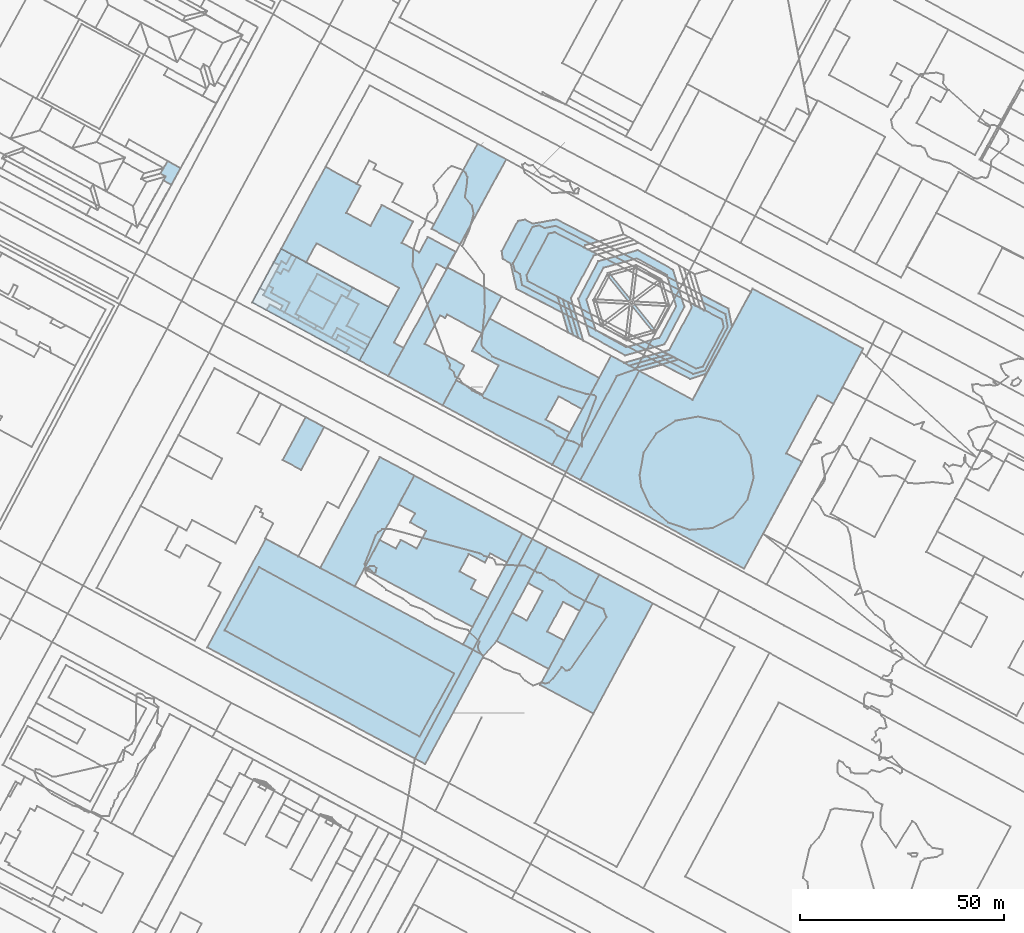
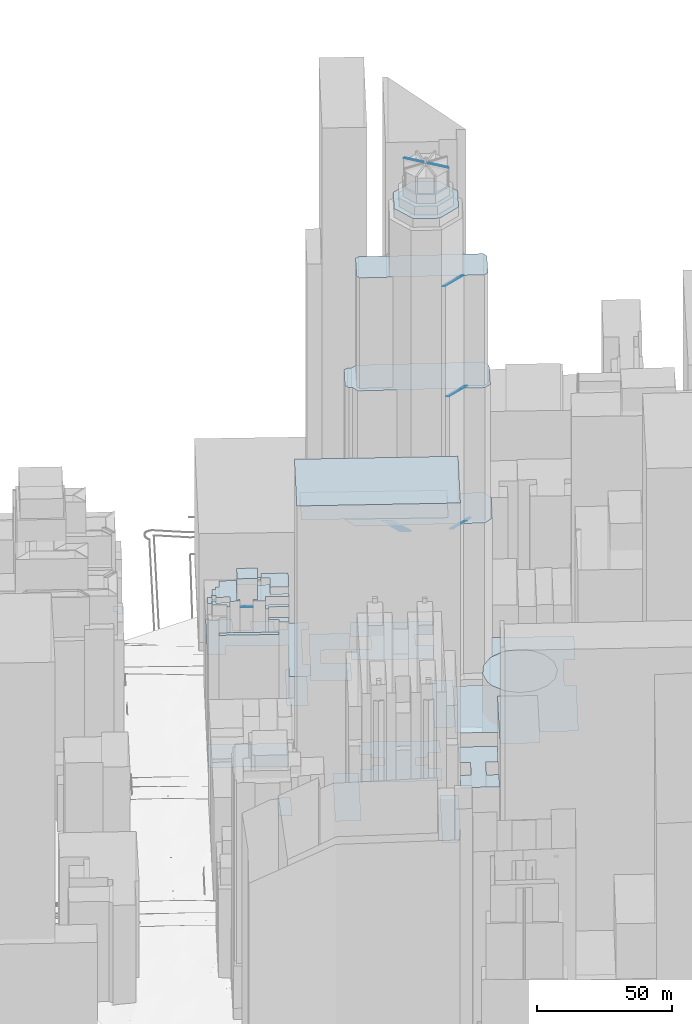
# Not in any storey, part 41 of 80: 40 roofs.
"""IFC4 building model written with IfcOpenShell, lengths in metres."""

from ifc_helpers import new_model, si_unit, frame, origin_with_axes, place, context, subcontext, project, spatial, polygons, element, save


model = new_model("IFC4")

# Units and contexts
model_context = context("Model", 3, precision=1e-05, world=origin_with_axes())
body_context = subcontext(model_context, "Body", "Model", "MODEL_VIEW")
ifc_project = project(units=[si_unit("AREAUNIT", "SQUARE_METRE"), si_unit("LENGTHUNIT", "METRE")], contexts=[model_context])

# Sites, building
site_1_placement = place(None, origin_with_axes())
site_1 = spatial("IfcSite", under=ifc_project, at=site_1_placement, Name="Topoexport Site")
site_2_placement = place(site_1_placement, origin_with_axes())
site_2 = spatial("IfcSite", under=site_1, at=site_2_placement, Name="TPX_BATIMENTS")
building_1_placement = place(site_2_placement, frame((183.8820757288, 196.3915098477, 20.8609767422), z_axis=(0.0, 0.0, 1.0), x_axis=(1.0, 0.0, 0.0)))
building_1 = spatial("IfcBuilding", under=site_2, at=building_1_placement, Name="Batiment 41", CompositionType="ELEMENT")

# Roof
roof_1_placement = place(None, frame((183.8820757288, 196.3915098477, 20.8609767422), z_axis=(0.0, 0.0, 1.0), x_axis=(1.0, 0.0, 0.0)))
element("IfcRoof", 1, at=roof_1_placement, inside=building_1, Name="Toiture 0", context=body_context, shape_type="Tessellation", body=[
    polygons([(0.0, 0.0, 49.0), (13.0985430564, -7.030868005, 49.0), (27.6239079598, 20.0388061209, 49.0), (14.5169569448, 27.0695500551, 49.0)], [[[4, 1, 2]], [[2, 3, 4]]]),
])

# Building
building_2_placement = place(site_2_placement, frame((102.2298570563, 205.6345629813, 20.5938253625), z_axis=(0.0, 0.0, 1.0), x_axis=(1.0, 0.0, 0.0)))
building_2 = spatial("IfcBuilding", under=site_2, at=building_2_placement, Name="Batiment 69", CompositionType="ELEMENT")

# Roof
roof_2_placement = place(None, frame((102.2298570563, 205.6345629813, 20.5938253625), z_axis=(0.0, 0.0, 1.0), x_axis=(1.0, 0.0, 0.0)))
element("IfcRoof", 2, at=roof_2_placement, inside=building_2, Name="Toiture 0", context=body_context, shape_type="Tessellation", body=[
    polygons([(0.0, 0.0, 179.8000030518), (53.4972467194, -28.6328905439, 179.8000030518), (67.8508291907, -2.0204918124, 179.8000030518), (14.353712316, 26.6122941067, 179.8000030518)], [[[4, 1, 2]], [[2, 3, 4]]]),
])

# Building
building_3_placement = place(site_2_placement, frame((106.4781571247, 209.8028425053, 21.3379729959), z_axis=(0.0, 0.0, 1.0), x_axis=(1.0, 0.0, 0.0)))
building_3 = spatial("IfcBuilding", under=site_2, at=building_3_placement, Name="Batiment 70", CompositionType="ELEMENT")

# Roof
roof_3_placement = place(None, frame((106.4781571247, 209.8028425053, 21.3379729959), z_axis=(0.0, 0.0, 1.0), x_axis=(1.0, 0.0, 0.0)))
element("IfcRoof", 3, at=roof_3_placement, inside=building_3, Name="Toiture 0", context=body_context, shape_type="Tessellation", body=[
    polygons([(0.0, 0.0, 168.8000030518), (47.8622501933, -26.0671157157, 168.8000030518), (56.3684390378, -10.5694282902, 168.8000030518), (8.5063843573, 15.4865312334, 168.8000030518)], [[[4, 1, 2]], [[2, 3, 4]]]),
])

# Building
building_4_placement = place(site_2_placement, frame((164.9927892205, 206.3193932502, 19.6062191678), z_axis=(0.0, 0.0, 1.0), x_axis=(1.0, 0.0, 0.0)))
building_4 = spatial("IfcBuilding", under=site_2, at=building_4_placement, Name="Batiment 71", CompositionType="ELEMENT")

# Roof
roof_4_placement = place(None, frame((164.9927892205, 206.3193932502, 19.6062191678), z_axis=(0.0, 0.0, 1.0), x_axis=(1.0, 0.0, 0.0)))
element("IfcRoof", 4, at=roof_4_placement, inside=building_4, Name="Toiture 0", context=body_context, shape_type="Tessellation", body=[
    polygons([(0.0, 0.0, 6.0), (5.0878970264, -2.7053220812, 6.0), (8.2630231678, 0.8287960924, 6.0), (20.6479519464, 23.9544415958, 6.0), (14.5577861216, 27.1921115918, 6.0)], [[[5, 1, 2]], [[2, 3, 4]], [[4, 5, 2]]]),
])

# Building
building_5_placement = place(site_2_placement, frame((173.2558123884, 207.1481893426, 18.8067512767), z_axis=(0.0, 0.0, 1.0), x_axis=(1.0, 0.0, 0.0)))
building_5 = spatial("IfcBuilding", under=site_2, at=building_5_placement, Name="Batiment 72", CompositionType="ELEMENT")

# Roof
roof_5_placement = place(None, frame((173.2558123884, 207.1481893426, 18.8067512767), z_axis=(0.0, 0.0, 1.0), x_axis=(1.0, 0.0, 0.0)))
element("IfcRoof", 5, at=roof_5_placement, inside=building_5, Name="Toiture 0", context=body_context, shape_type="Tessellation", body=[
    polygons([(0.0, 0.0, 28.3999996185), (12.733126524, -6.8241916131, 28.3999996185), (16.475942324, 0.1582329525, 28.3999996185), (12.3816260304, 2.3532869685, 28.3999996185), (16.2731366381, 9.6149967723, 28.3999996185), (20.3758905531, 7.4200430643, 28.3999996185), (25.1432202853, 16.3128705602, 28.3999996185), (12.3849287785, 23.1256455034, 28.3999996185), (7.6512209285, 14.2443195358, 28.3999996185), (11.2869121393, 12.2881807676, 28.3999996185), (7.3952691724, 5.0375743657, 28.3999996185), (3.742823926, 6.9824180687, 28.3999996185)], [[[12, 1, 2]], [[2, 3, 4]], [[5, 6, 7]], [[7, 8, 9]], [[11, 12, 2]], [[5, 7, 9]], [[10, 11, 2]], [[5, 9, 10]], [[10, 2, 4]], [[4, 5, 10]]]),
])

# Building
building_6_placement = place(site_2_placement, frame((159.9721915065, 264.969762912, 19.7613864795), z_axis=(0.0, 0.0, 1.0), x_axis=(1.0, 0.0, 0.0)))
building_6 = spatial("IfcBuilding", under=site_2, at=building_6_placement, Name="Batiment 73", CompositionType="ELEMENT")

# Roof
roof_6_placement = place(None, frame((159.9721915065, 264.969762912, 19.7613864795), z_axis=(0.0, 0.0, 1.0), x_axis=(1.0, 0.0, 0.0)))
element("IfcRoof", 6, at=roof_6_placement, inside=building_6, Name="Toiture 0", context=body_context, shape_type="Tessellation", body=[
    polygons([(0.0, 0.0, 54.7000007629), (26.8862979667, -14.5533802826, 54.7000007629), (31.1586807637, -6.6544117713, 54.7000007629), (25.3312162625, -3.502510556, 54.7000007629), (28.4385534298, 2.2290739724, 54.7000007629), (34.2660149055, -0.9228247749, 54.7000007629), (38.4143590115, 6.7526611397, 54.7000007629), (11.5365531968, 21.3060973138, 54.7000007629), (7.2227399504, 13.3400447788, 54.7000007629), (13.7552421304, 9.807746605, 54.7000007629), (9.8628457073, 2.6237495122, 54.7000007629), (3.3387795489, 6.1561492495, 54.7000007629)], [[[12, 1, 2]], [[2, 3, 4]], [[5, 6, 7]], [[7, 8, 9]], [[11, 12, 2]], [[5, 7, 9]], [[10, 11, 2]], [[5, 9, 10]], [[10, 2, 4]], [[4, 5, 10]]]),
])

# Building
building_7_placement = place(site_2_placement, frame((140.736043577, 224.855812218, 18.8878227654), z_axis=(0.0, 0.0, 1.0), x_axis=(1.0, 0.0, 0.0)))
building_7 = spatial("IfcBuilding", under=site_2, at=building_7_placement, Name="Batiment 74", CompositionType="ELEMENT")

# Roof
roof_7_placement = place(None, frame((140.736043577, 224.855812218, 18.8878227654), z_axis=(0.0, 0.0, 1.0), x_axis=(1.0, 0.0, 0.0)))
element("IfcRoof", 7, at=roof_7_placement, inside=building_7, Name="Toiture 0", context=body_context, shape_type="Tessellation", body=[
    polygons([(0.0, 0.0, 31.3999996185), (26.5536145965, -14.2464559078, 31.3999996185), (30.3624164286, -7.1300469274, 31.3999996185), (26.1831921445, -4.8915607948, 31.3999996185), (27.3481177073, -2.7130804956, 31.3999996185), (23.3727549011, -0.5832457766, 31.3999996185), (25.6615651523, 3.6733168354, 31.3999996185), (29.6369264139, 1.5434833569, 31.3999996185), (30.8679530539, 3.8448574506, 31.3999996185), (35.0471740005, 1.6063739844, 31.3999996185), (38.8145317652, 8.6556926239, 31.3999996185), (12.3027872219, 22.9358968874, 31.3999996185), (8.4690509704, 15.7859003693, 31.3999996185), (12.4614103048, 13.6451532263, 31.3999996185), (11.254926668, 11.4106810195, 31.3999996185), (15.2048295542, 9.2916463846, 31.3999996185), (12.9161442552, 5.023986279, 31.3999996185), (8.9662398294, 7.1430221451, 31.3999996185), (7.801181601, 4.9756455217, 31.3999996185), (3.8172594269, 7.11649328, 31.3999996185)], [[[20, 1, 2]], [[2, 3, 4]], [[4, 5, 6]], [[7, 8, 9]], [[9, 10, 11]], [[11, 12, 13]], [[14, 15, 16]], [[17, 18, 19]], [[19, 20, 2]], [[2, 4, 6]], [[7, 9, 11]], [[11, 13, 14]], [[17, 19, 2]], [[7, 11, 14]], [[16, 17, 2]], [[6, 7, 14]], [[16, 2, 6]], [[6, 14, 16]]]),
])

# Building
building_8_placement = place(site_2_placement, frame((129.9536213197, 225.0858006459, 21.0283081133), z_axis=(0.0, 0.0, 1.0), x_axis=(1.0, 0.0, 0.0)))
building_8 = spatial("IfcBuilding", under=site_2, at=building_8_placement, Name="Batiment 75", CompositionType="ELEMENT")

# Roof
roof_8_placement = place(None, frame((129.9536213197, 225.0858006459, 21.0283081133), z_axis=(0.0, 0.0, 1.0), x_axis=(1.0, 0.0, 0.0)))
element("IfcRoof", 8, at=roof_8_placement, inside=building_8, Name="Toiture 0", context=body_context, shape_type="Tessellation", body=[
    polygons([(0.0, 0.0, 15.1999998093), (8.4687912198, -4.5312400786, 15.1999998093), (23.0852094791, 22.7059084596, 15.1999998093), (14.6163103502, 27.2482324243, 15.1999998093)], [[[4, 1, 2]], [[2, 3, 4]]]),
])

# Building
building_9_placement = place(site_2_placement, frame((120.7569680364, 251.5799535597, 21.6785385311), z_axis=(0.0, 0.0, 1.0), x_axis=(1.0, 0.0, 0.0)))
building_9 = spatial("IfcBuilding", under=site_2, at=building_9_placement, Name="Batiment 79", CompositionType="ELEMENT")

# Roof
roof_9_placement = place(None, frame((120.7569680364, 251.5799535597, 21.6785385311), z_axis=(0.0, 0.0, 1.0), x_axis=(1.0, 0.0, 0.0)))
element("IfcRoof", 9, at=roof_9_placement, inside=building_9, Name="Toiture 0", context=body_context, shape_type="Tessellation", body=[
    polygons([(0.0, 0.0, 4.0), (4.5360060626, -2.4342069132, 4.0), (10.1793614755, 8.0785806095, 4.0), (5.6434887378, 10.5016832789, 4.0)], [[[4, 1, 2]], [[2, 3, 4]]]),
])

# Building
building_10_placement = place(site_2_placement, frame((133.701994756, 280.9958944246, 22.2284312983), z_axis=(0.0, 0.0, 1.0), x_axis=(1.0, 0.0, 0.0)))
building_10 = spatial("IfcBuilding", under=site_2, at=building_10_placement, Name="Batiment 80", CompositionType="ELEMENT")

# Roof
roof_10_placement = place(None, frame((133.701994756, 280.9958944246, 22.2284312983), z_axis=(0.0, 0.0, 1.0), x_axis=(1.0, 0.0, 0.0)))
element("IfcRoof", 10, at=roof_10_placement, inside=building_10, Name="Toiture 0", context=body_context, shape_type="Tessellation", body=[
    polygons([(0.0, 0.0, 70.0), (3.3046733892, -1.8045757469, 70.0), (2.5274119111, -3.2013890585, 70.0), (5.8745466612, -5.0276748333, 70.0), (7.3210219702, -2.3796322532, 70.0), (0.686095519, 1.2514244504, 70.0)], [[[6, 1, 2]], [[2, 3, 4]], [[5, 6, 2]], [[2, 4, 5]]]),
])

# Building
building_11_placement = place(site_2_placement, frame((132.7675039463, 281.5068423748, 22.0591971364), z_axis=(0.0, 0.0, 1.0), x_axis=(1.0, 0.0, 0.0)))
building_11 = spatial("IfcBuilding", under=site_2, at=building_11_placement, Name="Batiment 81", CompositionType="ELEMENT")

# Roof
roof_11_placement = place(None, frame((132.7675039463, 281.5068423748, 22.0591971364), z_axis=(0.0, 0.0, 1.0), x_axis=(1.0, 0.0, 0.0)))
element("IfcRoof", 11, at=roof_11_placement, inside=building_11, Name="Toiture 0", context=body_context, shape_type="Tessellation", body=[
    polygons([(0.0, 0.0, 75.0), (0.9344908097, -0.5109479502, 75.0), (1.6205863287, 0.7404765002, 75.0), (8.2555127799, -2.8905802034, 75.0), (8.9001799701, -1.7062499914, 75.0), (1.3392038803, 2.43585198, 75.0)], [[[6, 1, 2]], [[3, 4, 5]], [[6, 2, 3]], [[3, 5, 6]]]),
])

# Building
building_12_placement = place(site_2_placement, frame((136.4219742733, 284.4691979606, 20.8510870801), z_axis=(0.0, 0.0, 1.0), x_axis=(1.0, 0.0, 0.0)))
building_12 = spatial("IfcBuilding", under=site_2, at=building_12_placement, Name="Batiment 82", CompositionType="ELEMENT")

# Roof
roof_12_placement = place(None, frame((136.4219742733, 284.4691979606, 20.8510870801), z_axis=(0.0, 0.0, 1.0), x_axis=(1.0, 0.0, 0.0)))
element("IfcRoof", 12, at=roof_12_placement, inside=building_12, Name="Toiture 0", context=body_context, shape_type="Tessellation", body=[
    polygons([(0.0, 0.0, 83.0), (6.088815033, -3.1266972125, 83.0), (10.3290123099, 4.6386442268, 83.0), (1.4688163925, 9.4428815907, 83.0), (0.063512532, 6.8841359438, 83.0), (2.9178819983, 5.3296808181, 83.0)], [[[6, 1, 2]], [[2, 3, 4]], [[4, 5, 6]], [[6, 2, 4]]]),
])

# Building
building_13_placement = place(site_2_placement, frame((128.6389686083, 283.7459380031, 21.7688219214), z_axis=(0.0, 0.0, 1.0), x_axis=(1.0, 0.0, 0.0)))
building_13 = spatial("IfcBuilding", under=site_2, at=building_13_placement, Name="Batiment 83", CompositionType="ELEMENT")

# Roof
roof_13_placement = place(None, frame((128.6389686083, 283.7459380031, 21.7688219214), z_axis=(0.0, 0.0, 1.0), x_axis=(1.0, 0.0, 0.0)))
element("IfcRoof", 13, at=roof_13_placement, inside=building_13, Name="Toiture 0", context=body_context, shape_type="Tessellation", body=[
    polygons([(0.0, 0.0, 79.0), (4.128535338, -2.2390956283, 79.0), (5.4677392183, 0.1967563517, 79.0), (13.0287153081, -3.9453456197, 79.0), (13.8718206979, -2.403437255, 79.0), (7.7830056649, 0.7232599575, 79.0), (10.7008876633, 6.0529407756, 79.0), (6.5976755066, 8.2923269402, 79.0), (1.9668380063, 0.0006475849, 79.0), (0.4547989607, 0.8157486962, 79.0)], [[[10, 1, 2]], [[3, 4, 5]], [[6, 7, 8]], [[9, 10, 2]], [[3, 5, 6]], [[6, 8, 9]], [[9, 2, 3]], [[3, 6, 9]]]),
])

# Building
building_14_placement = place(site_2_placement, frame((127.1263243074, 293.3318134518, 21.914507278), z_axis=(0.0, 0.0, 1.0), x_axis=(1.0, 0.0, 0.0)))
building_14 = spatial("IfcBuilding", under=site_2, at=building_14_placement, Name="Batiment 84", CompositionType="ELEMENT")

# Roof
roof_14_placement = place(None, frame((127.1263243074, 293.3318134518, 21.914507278), z_axis=(0.0, 0.0, 1.0), x_axis=(1.0, 0.0, 0.0)))
element("IfcRoof", 14, at=roof_14_placement, inside=building_14, Name="Toiture 0", context=body_context, shape_type="Tessellation", body=[
    polygons([(0.0, 0.0, 81.0), (6.7281427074, -3.6632865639, 81.0), (8.1103198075, -1.2935485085, 81.0), (9.3591624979, -1.9784795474, 81.0), (10.1940852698, -0.4588713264, 81.0), (2.1408822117, 3.9106630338, 81.0)], [[[6, 1, 2]], [[3, 4, 5]], [[6, 2, 3]], [[3, 5, 6]]]),
])

# Building
building_15_placement = place(site_2_placement, frame((113.2505831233, 290.2618220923, 20.8510870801), z_axis=(0.0, 0.0, 1.0), x_axis=(1.0, 0.0, 0.0)))
building_15 = spatial("IfcBuilding", under=site_2, at=building_15_placement, Name="Batiment 85", CompositionType="ELEMENT")

# Roof
roof_15_placement = place(None, frame((113.2505831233, 290.2618220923, 20.8510870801), z_axis=(0.0, 0.0, 1.0), x_axis=(1.0, 0.0, 0.0)))
element("IfcRoof", 15, at=roof_15_placement, inside=building_15, Name="Toiture 0", context=body_context, shape_type="Tessellation", body=[
    polygons([(0.0, 0.0, 6.0), (26.3259582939, -14.293602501, 6.0), (33.5004034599, -1.1539799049, 6.0), (7.1070834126, 13.1277116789, 6.0)], [[[4, 1, 2]], [[2, 3, 4]]]),
])

# Building
building_16_placement = place(site_2_placement, frame((123.8777892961, 287.3987743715, 22.3844927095), z_axis=(0.0, 0.0, 1.0), x_axis=(1.0, 0.0, 0.0)))
building_16 = spatial("IfcBuilding", under=site_2, at=building_16_placement, Name="Batiment 86", CompositionType="ELEMENT")

# Roof
roof_16_placement = place(None, frame((123.8777892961, 287.3987743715, 22.3844927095), z_axis=(0.0, 0.0, 1.0), x_axis=(1.0, 0.0, 0.0)))
element("IfcRoof", 16, at=roof_16_placement, inside=building_16, Name="Toiture 0", context=body_context, shape_type="Tessellation", body=[
    polygons([(0.0, 0.0, 87.9000015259), (6.7280173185, -3.6521887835, 87.9000015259), (9.9766777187, 2.2697525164, 87.9000015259), (3.2485350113, 5.9330390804, 87.9000015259)], [[[4, 1, 2]], [[2, 3, 4]]]),
])

# Building
building_17_placement = place(site_2_placement, frame((124.4423978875, 286.0286544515, 23.0098590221), z_axis=(0.0, 0.0, 1.0), x_axis=(1.0, 0.0, 0.0)))
building_17 = spatial("IfcBuilding", under=site_2, at=building_17_placement, Name="Batiment 87", CompositionType="ELEMENT")

# Roof
roof_17_placement = place(None, frame((124.4423978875, 286.0286544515, 23.0098590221), z_axis=(0.0, 0.0, 1.0), x_axis=(1.0, 0.0, 0.0)))
element("IfcRoof", 17, at=roof_17_placement, inside=building_17, Name="Toiture 0", context=body_context, shape_type="Tessellation", body=[
    polygons([(0.0, 0.0, 75.0), (4.1965707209, -2.2827164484, 75.0), (4.6513696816, -1.4669677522, 75.0), (0.4463590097, 0.8156503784, 75.0)], [[[4, 1, 2]], [[2, 3, 4]]]),
])

# Building
building_18_placement = place(site_2_placement, frame((116.8013041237, 288.3490732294, 22.6187660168), z_axis=(0.0, 0.0, 1.0), x_axis=(1.0, 0.0, 0.0)))
building_18 = spatial("IfcBuilding", under=site_2, at=building_18_placement, Name="Batiment 88", CompositionType="ELEMENT")

# Roof
roof_18_placement = place(None, frame((116.8013041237, 288.3490732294, 22.6187660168), z_axis=(0.0, 0.0, 1.0), x_axis=(1.0, 0.0, 0.0)))
element("IfcRoof", 18, at=roof_18_placement, inside=building_18, Name="Toiture 0", context=body_context, shape_type="Tessellation", body=[
    polygons([(0.0, 0.0, 64.0), (19.4281025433, -10.5545678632, 64.0), (20.2053640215, -9.1577545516, 64.0), (0.7771349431, 1.4079120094, 64.0)], [[[4, 1, 2]], [[2, 3, 4]]]),
])

# Building
building_19_placement = place(site_2_placement, frame((115.9822453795, 292.0033020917, 23.3452877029), z_axis=(0.0, 0.0, 1.0), x_axis=(1.0, 0.0, 0.0)))
building_19 = spatial("IfcBuilding", under=site_2, at=building_19_placement, Name="Batiment 90", CompositionType="ELEMENT")

# Roof
roof_19_placement = place(None, frame((115.9822453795, 292.0033020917, 23.3452877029), z_axis=(0.0, 0.0, 1.0), x_axis=(1.0, 0.0, 0.0)))
element("IfcRoof", 19, at=roof_19_placement, inside=building_19, Name="Toiture 0", context=body_context, shape_type="Tessellation", body=[
    polygons([(0.0, 0.0, 75.0), (4.7571032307, -2.5759699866, 75.0), (4.1786660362, -3.648506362, 75.0), (5.1896332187, -4.2029764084, 75.0), (6.4789719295, -1.8343194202, 75.0), (1.8832649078, 0.6547063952, 75.0), (2.4784536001, 1.7385394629, 75.0), (1.2720721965, 2.4017622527, 75.0)], [[[2, 3, 4]], [[6, 7, 8]], [[2, 4, 5]], [[6, 8, 1]], [[1, 2, 5]], [[5, 6, 1]]]),
])

# Building
building_20_placement = place(site_2_placement, frame((117.2543175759, 294.4050643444, 21.8182038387), z_axis=(0.0, 0.0, 1.0), x_axis=(1.0, 0.0, 0.0)))
building_20 = spatial("IfcBuilding", under=site_2, at=building_20_placement, Name="Batiment 92", CompositionType="ELEMENT")

# Roof
roof_20_placement = place(None, frame((117.2543175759, 294.4050643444, 21.8182038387), z_axis=(0.0, 0.0, 1.0), x_axis=(1.0, 0.0, 0.0)))
element("IfcRoof", 20, at=roof_20_placement, inside=building_20, Name="Toiture 0", context=body_context, shape_type="Tessellation", body=[
    polygons([(0.0, 0.0, 79.0), (1.2063814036, -0.6632227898, 79.0), (0.6111927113, -1.7470558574, 79.0), (5.206899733, -4.2360816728, 79.0), (3.9175610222, -6.6047386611, 79.0), (7.1880803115, -8.3764098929, 79.0), (7.6344393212, -7.5607595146, 79.0), (6.6234717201, -7.0062899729, 79.0), (12.0128889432, 2.8374121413, 79.0), (20.0660920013, -1.532122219, 79.0), (20.6364730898, -0.4929847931, 79.0), (6.8834997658, 6.9411625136, 79.0), (4.9492373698, 3.4103780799, 79.0), (3.7259757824, 4.073404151, 79.0), (3.0481909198, 2.8331797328, 79.0), (1.8928382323, 3.4636882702, 79.0)], [[[16, 1, 2]], [[2, 3, 4]], [[4, 5, 6]], [[6, 7, 8]], [[9, 10, 11]], [[13, 14, 15]], [[15, 16, 2]], [[4, 6, 8]], [[9, 11, 12]], [[13, 15, 2]], [[4, 8, 9]], [[9, 12, 13]], [[13, 2, 4]], [[4, 9, 13]]]),
])

# Building
building_21_placement = place(site_2_placement, frame((120.3576665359, 303.3895337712, 19.1918452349), z_axis=(0.0, 0.0, 1.0), x_axis=(1.0, 0.0, 0.0)))
building_21 = spatial("IfcBuilding", under=site_2, at=building_21_placement, Name="Batiment 93", CompositionType="ELEMENT")

# Roof
roof_21_placement = place(None, frame((120.3576665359, 303.3895337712, 19.1918452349), z_axis=(0.0, 0.0, 1.0), x_axis=(1.0, 0.0, 0.0)))
element("IfcRoof", 21, at=roof_21_placement, inside=building_21, Name="Toiture 0", context=body_context, shape_type="Tessellation", body=[
    polygons([(0.0, 0.0, 48.2999992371), (6.1586360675, -3.3257392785, 48.2999992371), (8.6958773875, 1.3444821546, 48.2999992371), (28.9305528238, -9.6114631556, 48.2999992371), (19.2188748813, -27.4213141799, 48.2999992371), (26.294638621, -31.2137773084, 48.2999992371), (30.029914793, -24.3091752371, 48.2999992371), (27.6853086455, -23.0374588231, 48.2999992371), (38.1557868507, -3.6977675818, 48.2999992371), (40.5002598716, -4.9583798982, 48.2999992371), (42.7894344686, -0.7351197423, 48.2999992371), (36.0020774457, 2.9385544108, 48.2999992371), (33.927701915, -0.8825259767, 48.2999992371), (29.5868752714, 1.4651129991, 48.2999992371), (32.3883820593, 6.6380157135, 48.2999992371), (24.7261469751, 10.7789291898, 48.2999992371), (21.9330768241, 5.6061274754, 48.2999992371), (15.9697266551, 8.8342025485, 48.2999992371), (19.5314868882, 15.4148184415, 48.2999992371), (10.8837545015, 20.0994069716, 48.2999992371)], [[[20, 1, 2]], [[4, 5, 6]], [[6, 7, 8]], [[9, 10, 11]], [[11, 12, 13]], [[14, 15, 16]], [[18, 19, 20]], [[20, 2, 3]], [[4, 6, 8]], [[9, 11, 13]], [[14, 16, 17]], [[18, 20, 3]], [[4, 8, 9]], [[9, 13, 14]], [[17, 18, 3]], [[3, 4, 9]], [[9, 14, 17]], [[17, 3, 9]]]),
])

# Building
building_22_placement = place(site_2_placement, frame((146.6523051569, 272.1757564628, 19.3891240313), z_axis=(0.0, 0.0, 1.0), x_axis=(1.0, 0.0, 0.0)))
building_22 = spatial("IfcBuilding", under=site_2, at=building_22_placement, Name="Batiment 94", CompositionType="ELEMENT")

# Roof
roof_22_placement = place(None, frame((146.6523051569, 272.1757564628, 19.3891240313), z_axis=(0.0, 0.0, 1.0), x_axis=(1.0, 0.0, 0.0)))
element("IfcRoof", 22, at=roof_22_placement, inside=building_22, Name="Toiture 0", context=body_context, shape_type="Tessellation", body=[
    polygons([(0.0, 0.0, 45.9000015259), (13.3198863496, -7.2059935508, 45.9000015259), (18.6586321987, 2.6371463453, 45.9000015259), (8.931952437, 7.9086886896, 45.9000015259), (12.7252657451, 14.9027882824, 45.9000015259), (13.982422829, 14.2290601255, 45.9000015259), (14.4368310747, 15.0781131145, 45.9000015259), (22.9062179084, 10.4914052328, 45.9000015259), (27.7984552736, 19.5299999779, 45.9000015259), (14.5389731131, 26.6256464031, 45.9000015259)], [[[1, 2, 3]], [[5, 6, 7]], [[7, 8, 9]], [[1, 3, 4]], [[5, 7, 9]], [[10, 1, 4]], [[5, 9, 10]], [[10, 4, 5]]]),
])

# Building
building_23_placement = place(site_2_placement, frame((190.7505875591, 290.2965312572, 21.0925550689), z_axis=(0.0, 0.0, 1.0), x_axis=(1.0, 0.0, 0.0)))
building_23 = spatial("IfcBuilding", under=site_2, at=building_23_placement, Name="Batiment 95", CompositionType="ELEMENT")

# Roof
roof_23_placement = place(None, frame((190.7505875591, 290.2965312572, 21.0925550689), z_axis=(0.0, 0.0, 1.0), x_axis=(1.0, 0.0, 0.0)))
element("IfcRoof", 23, at=roof_23_placement, inside=building_23, Name="Toiture 0", context=body_context, shape_type="Tessellation", body=[
    polygons([(0.0, 0.0, 90.0), (2.5927444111, -8.8183526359, 90.0), (3.7905656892, -9.4705605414, 90.0), (1.2400209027, -0.6517176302, 90.0)], [[[4, 1, 2]], [[2, 3, 4]]]),
])

# Building
building_24_placement = place(site_2_placement, frame((189.5021266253, 290.948150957, 21.1265616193), z_axis=(0.0, 0.0, 1.0), x_axis=(1.0, 0.0, 0.0)))
building_24 = spatial("IfcBuilding", under=site_2, at=building_24_placement, Name="Batiment 96", CompositionType="ELEMENT")

# Roof
roof_24_placement = place(None, frame((189.5021266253, 290.948150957, 21.1265616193), z_axis=(0.0, 0.0, 1.0), x_axis=(1.0, 0.0, 0.0)))
element("IfcRoof", 24, at=roof_24_placement, inside=building_24, Name="Toiture 0", context=body_context, shape_type="Tessellation", body=[
    polygons([(0.0, 0.0, 90.0), (2.5839152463, -8.7851489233, 90.0), (3.8412053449, -9.4699723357, 90.0), (1.2484609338, -0.6516196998, 90.0)], [[[4, 1, 2]], [[2, 3, 4]]]),
])

# Building
building_25_placement = place(site_2_placement, frame((188.2449675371, 291.6218742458, 21.1651408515), z_axis=(0.0, 0.0, 1.0), x_axis=(1.0, 0.0, 0.0)))
building_25 = spatial("IfcBuilding", under=site_2, at=building_25_placement, Name="Batiment 97", CompositionType="ELEMENT")

# Roof
roof_25_placement = place(None, frame((188.2449675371, 291.6218742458, 21.1651408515), z_axis=(0.0, 0.0, 1.0), x_axis=(1.0, 0.0, 0.0)))
element("IfcRoof", 25, at=roof_25_placement, inside=building_25, Name="Toiture 0", context=body_context, shape_type="Tessellation", body=[
    polygons([(0.0, 0.0, 90.0), (2.5839135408, -8.7851493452, 90.0), (3.8410743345, -9.4588722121, 90.0), (1.2571590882, -0.6737232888, 90.0)], [[[4, 1, 2]], [[2, 3, 4]]]),
])

# Building
building_26_placement = place(site_2_placement, frame((204.4971683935, 275.4350208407, 21.6849039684), z_axis=(0.0, 0.0, 1.0), x_axis=(1.0, 0.0, 0.0)))
building_26 = spatial("IfcBuilding", under=site_2, at=building_26_placement, Name="Batiment 104", CompositionType="ELEMENT")

# Roof
roof_26_placement = place(None, frame((204.4971683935, 275.4350208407, 21.6849039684), z_axis=(0.0, 0.0, 1.0), x_axis=(1.0, 0.0, 0.0)))
element("IfcRoof", 26, at=roof_26_placement, inside=building_26, Name="Toiture 0", context=body_context, shape_type="Tessellation", body=[
    polygons([(0.0, 0.0, 200.0), (1.2741729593, -0.6846250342, 200.0), (10.7814669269, 2.0238691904, 200.0), (9.490542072, 2.6971955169, 200.0)], [[[4, 1, 2]], [[2, 3, 4]]]),
])

# Building
building_27_placement = place(site_2_placement, frame((205.7713413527, 274.7503958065, 21.7965636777), z_axis=(0.0, 0.0, 1.0), x_axis=(1.0, 0.0, 0.0)))
building_27 = spatial("IfcBuilding", under=site_2, at=building_27_placement, Name="Batiment 105", CompositionType="ELEMENT")

# Roof
roof_27_placement = place(None, frame((205.7713413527, 274.7503958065, 21.7965636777), z_axis=(0.0, 0.0, 1.0), x_axis=(1.0, 0.0, 0.0)))
element("IfcRoof", 27, at=roof_27_placement, inside=building_27, Name="Toiture 0", context=body_context, shape_type="Tessellation", body=[
    polygons([(0.0, 0.0, 150.0), (1.2572926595, -0.6848211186, 150.0), (10.7897787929, 2.0350699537, 150.0), (9.5072939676, 2.7084942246, 150.0)], [[[4, 1, 2]], [[2, 3, 4]]]),
])

# Building
building_28_placement = place(site_2_placement, frame((207.0286340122, 274.0655746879, 21.8143831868), z_axis=(0.0, 0.0, 1.0), x_axis=(1.0, 0.0, 0.0)))
building_28 = spatial("IfcBuilding", under=site_2, at=building_28_placement, Name="Batiment 106", CompositionType="ELEMENT")

# Roof
roof_28_placement = place(None, frame((207.0286340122, 274.0655746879, 21.8143831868), z_axis=(0.0, 0.0, 1.0), x_axis=(1.0, 0.0, 0.0)))
element("IfcRoof", 28, at=roof_28_placement, inside=building_28, Name="Toiture 0", context=body_context, shape_type="Tessellation", body=[
    polygons([(0.0, 0.0, 90.0), (1.1722447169, -0.630298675, 90.0), (10.6620135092, 2.1335061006, 90.0), (9.5324861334, 2.7198910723, 90.0)], [[[4, 1, 2]], [[2, 3, 4]]]),
])

# Building
building_29_placement = place(site_2_placement, frame((193.2816809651, 291.1364254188, 247.2874462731), z_axis=(0.0, 0.0, 1.0), x_axis=(1.0, 0.0, 0.0)))
building_29 = spatial("IfcBuilding", under=site_2, at=building_29_placement, Name="Batiment 108", CompositionType="ELEMENT")

# Roof
roof_29_placement = place(None, frame((193.2816809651, 291.1364254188, 247.2874462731), z_axis=(0.0, 0.0, 1.0), x_axis=(1.0, 0.0, 0.0)))
element("IfcRoof", 29, at=roof_29_placement, inside=building_29, Name="Toiture 0", context=body_context, shape_type="Tessellation", body=[
    polygons([(0.0, 0.0, 4.0), (2.7471243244, -9.0274996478, 4.0), (11.4476540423, -13.8890368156, 4.0), (21.1319324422, -11.1562809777, 4.0), (26.0391907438, -1.9620488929, 4.0), (23.2920400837, 7.0654426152, 4.0), (14.5913971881, 11.9380665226, 4.0), (4.9071471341, 9.2053187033, 4.0)], [[[8, 1, 2]], [[2, 3, 4]], [[4, 5, 6]], [[6, 7, 8]], [[8, 2, 4]], [[4, 6, 8]]]),
])

# Building
building_30_placement = place(site_2_placement, frame((200.4835497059, 296.8268073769, 260.0739856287), z_axis=(0.0, 0.0, 1.0), x_axis=(1.0, 0.0, 0.0)))
building_30 = spatial("IfcBuilding", under=site_2, at=building_30_placement, Name="Batiment 109", CompositionType="ELEMENT")

# Roof
roof_30_placement = place(None, frame((200.4835497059, 296.8268073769, 260.0739856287), z_axis=(0.0, 0.0, 1.0), x_axis=(1.0, 0.0, 0.0)))
element("IfcRoof", 30, at=roof_30_placement, inside=building_30, Name="Toiture 0", context=body_context, shape_type="Tessellation", body=[
    polygons([(0.0, 0.0, 8.0), (11.1849786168, -13.8032627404, 8.0), (11.7370008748, -13.3638547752, 8.0), (0.5434525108, 0.450409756, 8.0)], [[[4, 1, 2]], [[2, 3, 4]]]),
])

# Building
building_31_placement = place(site_2_placement, frame((174.515196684, 302.8642732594, 21.3701181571), z_axis=(0.0, 0.0, 1.0), x_axis=(1.0, 0.0, 0.0)))
building_31 = spatial("IfcBuilding", under=site_2, at=building_31_placement, Name="Batiment 118", CompositionType="ELEMENT")

# Roof
roof_31_placement = place(None, frame((174.515196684, 302.8642732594, 21.3701181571), z_axis=(0.0, 0.0, 1.0), x_axis=(1.0, 0.0, 0.0)))
element("IfcRoof", 31, at=roof_31_placement, inside=building_31, Name="Toiture 0", context=body_context, shape_type="Tessellation", body=[
    polygons([(0.0, 0.0, 90.0), (0.2596837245, -2.0064896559, 90.0), (2.2055322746, -3.1051971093, 90.0), (3.6457642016, -9.3612290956, 90.0), (46.1429906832, -31.4157509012, 90.0), (50.1375301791, -30.1147343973, 90.0), (56.4684852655, -18.4947444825, 90.0), (55.6076025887, -14.152673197, 90.0), (13.4416773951, 7.7280088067, 90.0), (7.5533148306, 6.6825504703, 90.0), (5.6591417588, 7.693039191, 90.0), (3.9490017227, 7.3956015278, 90.0)], [[[12, 1, 2]], [[3, 4, 5]], [[5, 6, 7]], [[7, 8, 9]], [[10, 11, 12]], [[12, 2, 3]], [[3, 5, 7]], [[7, 9, 10]], [[10, 12, 3]], [[3, 7, 10]]]),
])

# Building
building_32_placement = place(site_2_placement, frame((177.2431205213, 299.8428648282, 43.5388270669), z_axis=(0.0, 0.0, 1.0), x_axis=(1.0, 0.0, 0.0)))
building_32 = spatial("IfcBuilding", under=site_2, at=building_32_placement, Name="Batiment 119", CompositionType="ELEMENT")

# Roof
roof_32_placement = place(None, frame((177.2431205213, 299.8428648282, 43.5388270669), z_axis=(0.0, 0.0, 1.0), x_axis=(1.0, 0.0, 0.0)))
element("IfcRoof", 32, at=roof_32_placement, inside=building_32, Name="Toiture 0", context=body_context, shape_type="Tessellation", body=[
    polygons([(0.0, 0.0, 128.0), (0.5291270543, -1.9478459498, 128.0), (1.7866712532, -2.6548732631, 128.0), (2.2654927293, -5.358257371, 128.0), (44.1689292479, -27.1643259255, 128.0), (47.0793212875, -26.2756005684, 128.0), (52.7120119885, -15.5852207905, 128.0), (52.1358092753, -12.4943931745, 128.0), (10.4871850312, 9.1813647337, 128.0), (7.7499180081, 8.6499384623, 128.0), (6.3919957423, 9.2780819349, 128.0), (4.8257265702, 8.9490093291, 128.0)], [[[12, 1, 2]], [[3, 4, 5]], [[5, 6, 7]], [[7, 8, 9]], [[10, 11, 12]], [[12, 2, 3]], [[3, 5, 7]], [[7, 9, 10]], [[10, 12, 3]], [[3, 7, 10]]]),
])

# Building
building_33_placement = place(site_2_placement, frame((180.6026452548, 296.9509249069, 171.5778831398), z_axis=(0.0, 0.0, 1.0), x_axis=(1.0, 0.0, 0.0)))
building_33 = spatial("IfcBuilding", under=site_2, at=building_33_placement, Name="Batiment 120", CompositionType="ELEMENT")

# Roof
roof_33_placement = place(None, frame((180.6026452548, 296.9509249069, 171.5778831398), z_axis=(0.0, 0.0, 1.0), x_axis=(1.0, 0.0, 0.0)))
element("IfcRoof", 33, at=roof_33_placement, inside=building_33, Name="Toiture 0", context=body_context, shape_type="Tessellation", body=[
    polygons([(0.0, 0.0, 50.0), (0.2620602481, -1.4846557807, 50.0), (41.5201615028, -22.9651549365, 50.0), (43.2446066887, -22.4454958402, 50.0), (48.3487420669, -12.7604679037, 50.0), (47.9978790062, -10.8993697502, 50.0), (6.8926514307, 10.5051540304, 50.0), (5.3850764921, 10.2100697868, 50.0)], [[[8, 1, 2]], [[2, 3, 4]], [[4, 5, 6]], [[6, 7, 8]], [[8, 2, 4]], [[4, 6, 8]]]),
])

# Building
building_34_placement = place(site_2_placement, frame((186.8584894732, 250.4163826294, 21.3845065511), z_axis=(0.0, 0.0, 1.0), x_axis=(1.0, 0.0, 0.0)))
building_34 = spatial("IfcBuilding", under=site_2, at=building_34_placement, Name="Batiment 121", CompositionType="ELEMENT")

# Roof
roof_34_placement = place(None, frame((186.8584894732, 250.4163826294, 21.3845065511), z_axis=(0.0, 0.0, 1.0), x_axis=(1.0, 0.0, 0.0)))
element("IfcRoof", 34, at=roof_34_placement, inside=building_34, Name="Toiture 0", context=body_context, shape_type="Tessellation", body=[
    polygons([(0.0, 0.0, 22.0), (6.8724714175, -3.7281693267, 22.0), (21.3423892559, 23.0188933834, 22.0), (14.4700635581, 26.7359484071, 22.0)], [[[4, 1, 2]], [[2, 3, 4]]]),
])

# Building
building_35_placement = place(site_2_placement, frame((208.3375568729, 247.8905716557, 20.825107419), z_axis=(0.0, 0.0, 1.0), x_axis=(1.0, 0.0, 0.0)))
building_35 = spatial("IfcBuilding", under=site_2, at=building_35_placement, Name="Batiment 122", CompositionType="ELEMENT")

# Roof
roof_35_placement = place(None, frame((208.3375568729, 247.8905716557, 20.825107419), z_axis=(0.0, 0.0, 1.0), x_axis=(1.0, 0.0, 0.0)))
element("IfcRoof", 35, at=roof_35_placement, inside=building_35, Name="Toiture 0", context=body_context, shape_type="Tessellation", body=[
    polygons([(0.0, 0.0, 37.0), (0.3701435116, -2.7934642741, 37.0), (2.7424292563, -7.8951187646, 37.0), (6.9390853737, -11.6321820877, 37.0), (12.2781734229, -13.435265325, 37.0), (17.8949044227, -12.9813571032, 37.0), (22.8786233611, -10.3587654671, 37.0), (26.4239639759, -5.9987460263, 37.0), (27.9565517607, -0.5963225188, 37.0), (27.2249428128, 4.9685003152, 37.0), (24.3493255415, 9.7978381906, 37.0), (19.7863353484, 13.0976424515, 37.0), (14.2932254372, 14.3549177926, 37.0), (8.7506217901, 13.3356587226, 37.0), (4.0595645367, 10.2279804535, 37.0), (0.973996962, 5.5291486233, 37.0)], [[[16, 1, 2]], [[2, 3, 4]], [[4, 5, 6]], [[6, 7, 8]], [[8, 9, 10]], [[10, 11, 12]], [[12, 13, 14]], [[14, 15, 16]], [[16, 2, 4]], [[4, 6, 8]], [[8, 10, 12]], [[12, 14, 16]], [[16, 4, 8]], [[8, 12, 16]]]),
])

# Building
building_36_placement = place(site_2_placement, frame((193.7309608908, 246.6882133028, 19.7595905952), z_axis=(0.0, 0.0, 1.0), x_axis=(1.0, 0.0, 0.0)))
building_36 = spatial("IfcBuilding", under=site_2, at=building_36_placement, Name="Batiment 123", CompositionType="ELEMENT")

# Roof
roof_36_placement = place(None, frame((193.7309608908, 246.6882133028, 19.7595905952), z_axis=(0.0, 0.0, 1.0), x_axis=(1.0, 0.0, 0.0)))
element("IfcRoof", 36, at=roof_36_placement, inside=building_36, Name="Toiture 0", context=body_context, shape_type="Tessellation", body=[
    polygons([(0.0, 0.0, 21.0), (40.2234747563, -21.7700261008, 21.0), (54.4125243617, 4.4409408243, 21.0), (50.5303832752, 6.5385106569, 21.0), (58.2323186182, 20.7612951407, 21.0), (62.1144547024, 18.6637293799, 21.0), (69.4444224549, 32.2049607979, 21.0), (42.2947416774, 46.899331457, 21.0), (27.5521167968, 19.6605385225, 21.0), (14.4699178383, 26.7470627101, 21.0)], [[[10, 1, 2]], [[2, 3, 4]], [[5, 6, 7]], [[7, 8, 9]], [[9, 10, 2]], [[5, 7, 9]], [[9, 2, 4]], [[4, 5, 9]]]),
])

# Building
building_37_placement = place(site_2_placement, frame((157.2485817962, 308.2924157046, 19.5637782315), z_axis=(0.0, 0.0, 1.0), x_axis=(1.0, 0.0, 0.0)))
building_37 = spatial("IfcBuilding", under=site_2, at=building_37_placement, Name="Batiment 260", CompositionType="ELEMENT")

# Roof
roof_37_placement = place(None, frame((157.2485817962, 308.2924157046, 19.5637782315), z_axis=(0.0, 0.0, 1.0), x_axis=(1.0, 0.0, 0.0)))
element("IfcRoof", 37, at=roof_37_placement, inside=building_37, Name="Toiture 0", context=body_context, shape_type="Tessellation", body=[
    polygons([(0.0, 0.0, 8.8000001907), (7.0337999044, -3.8151381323, 8.8000001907), (18.3222304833, 17.0439945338, 8.8000001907), (11.288572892, 20.8480210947, 8.8000001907)], [[[4, 1, 2]], [[2, 3, 4]]]),
])

# Building
building_38_placement = place(site_2_placement, frame((118.5811882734, 300.0826284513, 23.3439021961), z_axis=(0.0, 0.0, 1.0), x_axis=(1.0, 0.0, 0.0)))
building_38 = spatial("IfcBuilding", under=site_2, at=building_38_placement, Name="Batiment 321", CompositionType="ELEMENT")

# Roof
roof_38_placement = place(None, frame((118.5811882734, 300.0826284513, 23.3439021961), z_axis=(0.0, 0.0, 1.0), x_axis=(1.0, 0.0, 0.0)))
element("IfcRoof", 38, at=roof_38_placement, inside=building_38, Name="Toiture 0", context=body_context, shape_type="Tessellation", body=[
    polygons([(0.0, 0.0, 70.0), (1.3506384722, -0.7281601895, 70.0), (1.8710248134, 0.2548837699, 70.0), (3.0602671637, -0.3863330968, 70.0), (4.3418081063, 1.9267222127, 70.0), (1.7764782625, 3.3069053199, 70.0)], [[[6, 1, 2]], [[3, 4, 5]], [[6, 2, 3]], [[3, 5, 6]]]),
])

# Building
building_39_placement = place(site_2_placement, frame((119.1471558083, 297.8687526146, 23.2334152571), z_axis=(0.0, 0.0, 1.0), x_axis=(1.0, 0.0, 0.0)))
building_39 = spatial("IfcBuilding", under=site_2, at=building_39_placement, Name="Batiment 322", CompositionType="ELEMENT")

# Roof
roof_39_placement = place(None, frame((119.1471558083, 297.8687526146, 23.2334152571), z_axis=(0.0, 0.0, 1.0), x_axis=(1.0, 0.0, 0.0)))
element("IfcRoof", 39, at=roof_39_placement, inside=building_39, Name="Toiture 0", context=body_context, shape_type="Tessellation", body=[
    polygons([(0.0, 0.0, 73.0), (1.1553526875, -0.6305085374, 73.0), (1.83313755, 0.6097158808, 73.0), (3.0563991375, -0.0533101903, 73.0), (4.9906615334, 3.4774742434, 73.0), (3.7758405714, 4.1405980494, 73.0), (2.4942996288, 1.8275427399, 73.0), (1.3050572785, 2.4687596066, 73.0)], [[[8, 1, 2]], [[3, 4, 5]], [[5, 6, 7]], [[7, 8, 2]], [[3, 5, 7]], [[7, 2, 3]]]),
])

# Building
building_40_placement = place(site_2_placement, frame((90.7756990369, 321.8531409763, 24.126993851), z_axis=(0.0, 0.0, 1.0), x_axis=(1.0, 0.0, 0.0)))
building_40 = spatial("IfcBuilding", under=site_2, at=building_40_placement, Name="Batiment 323", CompositionType="ELEMENT")

# Roof
roof_40_placement = place(None, frame((90.7756990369, 321.8531409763, 24.126993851), z_axis=(0.0, 0.0, 1.0), x_axis=(1.0, 0.0, 0.0)))
element("IfcRoof", 40, at=roof_40_placement, inside=building_40, Name="Toiture 0", context=body_context, shape_type="Tessellation", body=[
    polygons([(0.0, 0.0, 62.0), (1.2493491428, -0.7293414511, 62.0), (0.711693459, -1.6792771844, 62.0), (2.6573951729, -2.7669055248, 62.0), (4.9315253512, 1.3007267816, 62.0), (1.7368622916, 3.0843934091, 62.0)], [[[6, 1, 2]], [[2, 3, 4]], [[4, 5, 6]], [[6, 2, 4]]]),
])

save(model, "model.ifc")
